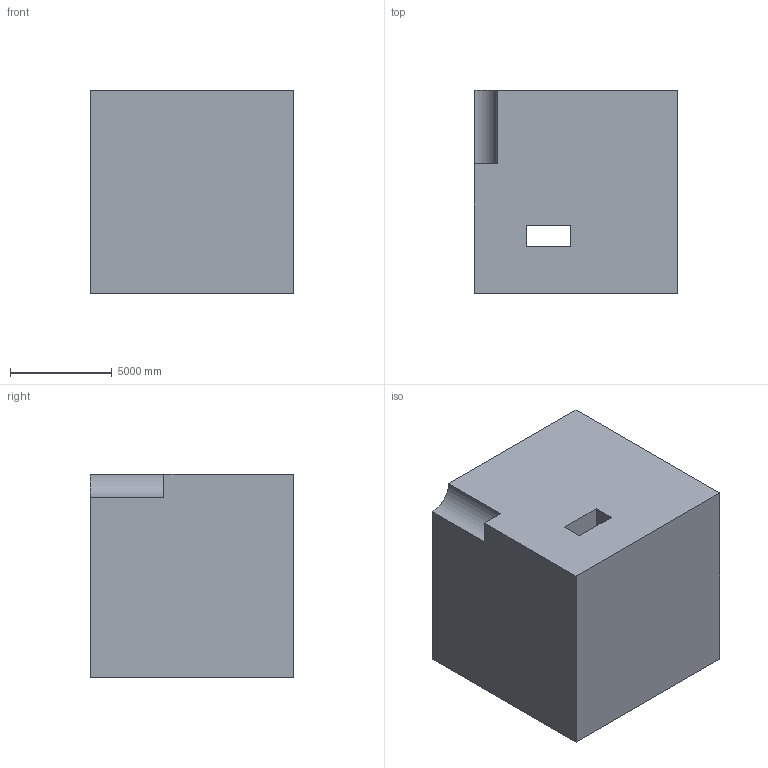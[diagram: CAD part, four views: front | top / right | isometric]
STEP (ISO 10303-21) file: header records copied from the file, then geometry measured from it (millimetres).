
FILE_DESCRIPTION (( 'STEP AP203' ), '1' );
FILE_NAME ('1241.STEP', '2022-08-18T13:20:57', ( 'user' ), ( '' ), 'SwSTEP 2.0', 'SolidWorks 2021', '' );
FILE_SCHEMA (( 'CONFIG_CONTROL_DESIGN' ));
Length unit declared in the file: centimetre
Products named in the file (1): 1241
Bounding box: 10000 x 10000 x 10000 mm (x, y, z)
Volume: 940477460056.3 mm3; surface area: 717704897.6 mm2
Topology: 1 solids, 1 shells, 18 faces, 42 edges, 28 vertices
Faces by surface type: plane 13, cylinder 5
Entity records: 597 total; most frequent: DIRECTION 90, CARTESIAN_POINT 89, ORIENTED_EDGE 84, EDGE_CURVE 42, LINE 32, VECTOR 32, AXIS2_PLACEMENT_3D 29, VERTEX_POINT 28
